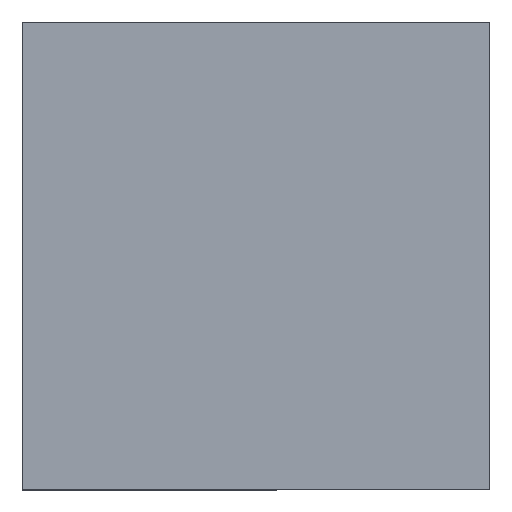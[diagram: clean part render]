
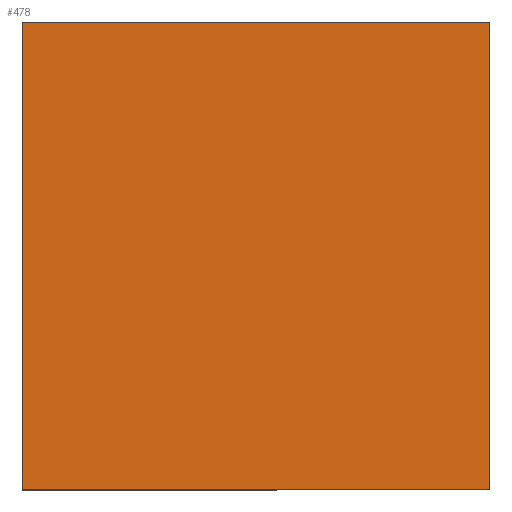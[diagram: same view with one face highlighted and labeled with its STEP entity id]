
A CAD part, top view. The second image highlights one B-rep face of the part: STEP entity #478.
In plain terms, the highlighted planar face has unit normal (0, 0, 1).
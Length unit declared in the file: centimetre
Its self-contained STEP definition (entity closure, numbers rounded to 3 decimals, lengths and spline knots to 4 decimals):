
#26 = EDGE_CURVE ( 'NONE', #180, #507, #250, .T. ) ;
#27 = DIRECTION ( 'NONE',  ( 1., 0., 0. ) ) ;
#48 = ORIENTED_EDGE ( 'NONE', *, *, #138, .T. ) ;
#50 = CARTESIAN_POINT ( 'NONE',  ( 0., 1000., 1000. ) ) ;
#62 = VECTOR ( 'NONE', #379, 100. ) ;
#89 = LINE ( 'NONE', #50, #448 ) ;
#97 = LINE ( 'NONE', #223, #62 ) ;
#98 = EDGE_CURVE ( 'NONE', #303, #514, #89, .T. ) ;
#138 = EDGE_CURVE ( 'NONE', #514, #180, #382, .T. ) ;
#144 = EDGE_CURVE ( 'NONE', #507, #303, #97, .T. ) ;
#147 = ORIENTED_EDGE ( 'NONE', *, *, #26, .T. ) ;
#180 = VERTEX_POINT ( 'NONE', #260 ) ;
#210 = VECTOR ( 'NONE', #412, 100. ) ;
#223 = CARTESIAN_POINT ( 'NONE',  ( 0., 1000., 1000. ) ) ;
#228 = VECTOR ( 'NONE', #27, 100. ) ;
#245 = DIRECTION ( 'NONE',  ( 0., -1., 0. ) ) ;
#250 = LINE ( 'NONE', #496, #210 ) ;
#260 = CARTESIAN_POINT ( 'NONE',  ( 1000., 0., 1000. ) ) ;
#297 = CARTESIAN_POINT ( 'NONE',  ( 1000., 1000., 1000. ) ) ;
#303 = VERTEX_POINT ( 'NONE', #480 ) ;
#306 = CARTESIAN_POINT ( 'NONE',  ( 0., 0., 1000. ) ) ;
#308 = PLANE ( 'NONE',  #370 ) ;
#370 = AXIS2_PLACEMENT_3D ( 'NONE', #387, #463, #378 ) ;
#378 = DIRECTION ( 'NONE',  ( 1., 0., 0. ) ) ;
#379 = DIRECTION ( 'NONE',  ( -1., 0., 0. ) ) ;
#382 = LINE ( 'NONE', #306, #228 ) ;
#387 = CARTESIAN_POINT ( 'NONE',  ( 0., 0., 1000. ) ) ;
#393 = ORIENTED_EDGE ( 'NONE', *, *, #98, .T. ) ;
#412 = DIRECTION ( 'NONE',  ( 0., 1., 0. ) ) ;
#431 = FACE_OUTER_BOUND ( 'NONE', #503, .T. ) ;
#434 = ORIENTED_EDGE ( 'NONE', *, *, #144, .T. ) ;
#448 = VECTOR ( 'NONE', #245, 100. ) ;
#463 = DIRECTION ( 'NONE',  ( 0., 0., 1. ) ) ;
#478 = ADVANCED_FACE ( 'NONE', ( #431 ), #308, .T. ) ;
#480 = CARTESIAN_POINT ( 'NONE',  ( 0., 1000., 1000. ) ) ;
#496 = CARTESIAN_POINT ( 'NONE',  ( 1000., 1000., 1000. ) ) ;
#503 = EDGE_LOOP ( 'NONE', ( #393, #48, #147, #434 ) ) ;
#507 = VERTEX_POINT ( 'NONE', #297 ) ;
#508 = CARTESIAN_POINT ( 'NONE',  ( 0., 0., 1000. ) ) ;
#514 = VERTEX_POINT ( 'NONE', #508 ) ;
